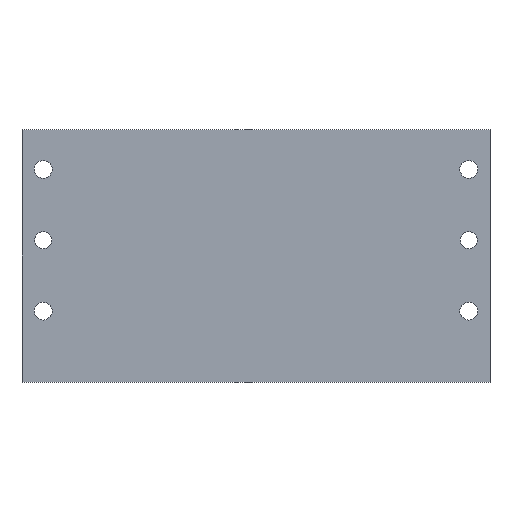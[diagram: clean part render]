
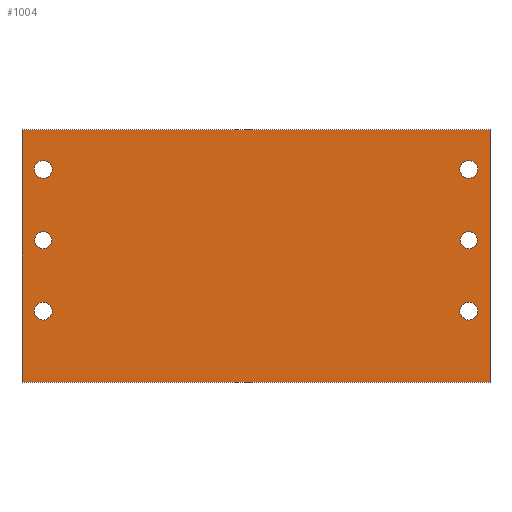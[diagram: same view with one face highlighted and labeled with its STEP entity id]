
A CAD part, front view. The second image highlights one B-rep face of the part: STEP entity #1004.
In plain terms, the highlighted planar face has unit normal (0, -1, 0).
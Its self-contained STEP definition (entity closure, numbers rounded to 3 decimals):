
#39=FACE_BOUND($,#193,.T.);
#40=FACE_BOUND($,#194,.T.);
#41=FACE_BOUND($,#195,.T.);
#42=FACE_BOUND($,#196,.T.);
#43=FACE_BOUND($,#197,.T.);
#44=FACE_BOUND($,#198,.T.);
#45=FACE_BOUND($,#199,.T.);
#78=PLANE($,#1090);
#193=EDGE_LOOP($,(#847));
#194=EDGE_LOOP($,(#848));
#195=EDGE_LOOP($,(#849));
#196=EDGE_LOOP($,(#850));
#197=EDGE_LOOP($,(#851));
#198=EDGE_LOOP($,(#852));
#199=EDGE_LOOP($,(#853,#854,#855,#856));
#274=LINE($,#1538,#364);
#293=LINE($,#1606,#383);
#294=LINE($,#1609,#384);
#296=LINE($,#1612,#386);
#364=VECTOR($,#1263,177.8);
#383=VECTOR($,#1336,330.);
#384=VECTOR($,#1339,330.);
#386=VECTOR($,#1343,177.8);
#413=CIRCLE($,#1064,6.25);
#415=CIRCLE($,#1067,6.25);
#417=CIRCLE($,#1070,6.25);
#419=CIRCLE($,#1073,6.25);
#421=CIRCLE($,#1076,6.);
#423=CIRCLE($,#1079,6.);
#492=VERTEX_POINT($,#1535);
#493=VERTEX_POINT($,#1537);
#496=VERTEX_POINT($,#1546);
#498=VERTEX_POINT($,#1551);
#500=VERTEX_POINT($,#1556);
#502=VERTEX_POINT($,#1561);
#504=VERTEX_POINT($,#1566);
#506=VERTEX_POINT($,#1571);
#515=VERTEX_POINT($,#1604);
#516=VERTEX_POINT($,#1608);
#606=EDGE_CURVE($,#493,#492,#274,.T.);
#610=EDGE_CURVE($,#496,#496,#413,.T.);
#612=EDGE_CURVE($,#498,#498,#415,.T.);
#614=EDGE_CURVE($,#500,#500,#417,.T.);
#616=EDGE_CURVE($,#502,#502,#419,.T.);
#618=EDGE_CURVE($,#504,#504,#421,.T.);
#620=EDGE_CURVE($,#506,#506,#423,.T.);
#637=EDGE_CURVE($,#492,#515,#293,.T.);
#638=EDGE_CURVE($,#516,#493,#294,.T.);
#640=EDGE_CURVE($,#515,#516,#296,.T.);
#847=ORIENTED_EDGE($,*,*,#610,.T.);
#848=ORIENTED_EDGE($,*,*,#612,.T.);
#849=ORIENTED_EDGE($,*,*,#614,.T.);
#850=ORIENTED_EDGE($,*,*,#616,.T.);
#851=ORIENTED_EDGE($,*,*,#618,.T.);
#852=ORIENTED_EDGE($,*,*,#620,.T.);
#853=ORIENTED_EDGE($,*,*,#638,.T.);
#854=ORIENTED_EDGE($,*,*,#606,.T.);
#855=ORIENTED_EDGE($,*,*,#637,.T.);
#856=ORIENTED_EDGE($,*,*,#640,.T.);
#1004=ADVANCED_FACE($,(#39,#40,#41,#42,#43,#44,#45),#78,.T.);
#1064=AXIS2_PLACEMENT_3D($,#1547,#1271,#1272);
#1067=AXIS2_PLACEMENT_3D($,#1552,#1277,#1278);
#1070=AXIS2_PLACEMENT_3D($,#1557,#1283,#1284);
#1073=AXIS2_PLACEMENT_3D($,#1562,#1289,#1290);
#1076=AXIS2_PLACEMENT_3D($,#1567,#1295,#1296);
#1079=AXIS2_PLACEMENT_3D($,#1572,#1301,#1302);
#1090=AXIS2_PLACEMENT_3D($,#1611,#1341,#1342);
#1263=DIRECTION($,(0.,0.,1.));
#1271=DIRECTION('center_axis',(0.,1.,0.));
#1272=DIRECTION('ref_axis',(1.,0.,0.));
#1277=DIRECTION('center_axis',(0.,1.,0.));
#1278=DIRECTION('ref_axis',(1.,0.,0.));
#1283=DIRECTION('center_axis',(0.,1.,0.));
#1284=DIRECTION('ref_axis',(1.,0.,0.));
#1289=DIRECTION('center_axis',(0.,1.,0.));
#1290=DIRECTION('ref_axis',(1.,0.,0.));
#1295=DIRECTION('center_axis',(0.,1.,0.));
#1296=DIRECTION('ref_axis',(1.,0.,0.));
#1301=DIRECTION('center_axis',(0.,1.,0.));
#1302=DIRECTION('ref_axis',(1.,0.,0.));
#1336=DIRECTION($,(-1.,0.,0.));
#1339=DIRECTION($,(1.,0.,0.));
#1341=DIRECTION('center_axis',(0.,-1.,0.));
#1342=DIRECTION('ref_axis',(0.,0.,-1.));
#1343=DIRECTION($,(0.,0.,-1.));
#1535=CARTESIAN_POINT('',(165.,-248.5,171.8));
#1537=CARTESIAN_POINT('',(165.,-248.5,-6.));
#1538=CARTESIAN_POINT($,(165.,-248.5,-6.));
#1546=CARTESIAN_POINT('',(143.75,-248.5,44.));
#1547=CARTESIAN_POINT('Origin',(150.,-248.5,44.));
#1551=CARTESIAN_POINT('',(-156.25,-248.5,144.));
#1552=CARTESIAN_POINT('Origin',(-150.,-248.5,144.));
#1556=CARTESIAN_POINT('',(143.75,-248.5,144.));
#1557=CARTESIAN_POINT('Origin',(150.,-248.5,144.));
#1561=CARTESIAN_POINT('',(-156.25,-248.5,44.));
#1562=CARTESIAN_POINT('Origin',(-150.,-248.5,44.));
#1566=CARTESIAN_POINT('',(144.,-248.5,94.));
#1567=CARTESIAN_POINT('Origin',(150.,-248.5,94.));
#1571=CARTESIAN_POINT('',(-156.,-248.5,94.));
#1572=CARTESIAN_POINT('Origin',(-150.,-248.5,94.));
#1604=CARTESIAN_POINT('',(-165.,-248.5,171.8));
#1606=CARTESIAN_POINT($,(165.,-248.5,171.8));
#1608=CARTESIAN_POINT('',(-165.,-248.5,-6.));
#1609=CARTESIAN_POINT($,(-165.,-248.5,-6.));
#1611=CARTESIAN_POINT('Origin',(0.,-248.5,82.9));
#1612=CARTESIAN_POINT($,(-165.,-248.5,171.8));
